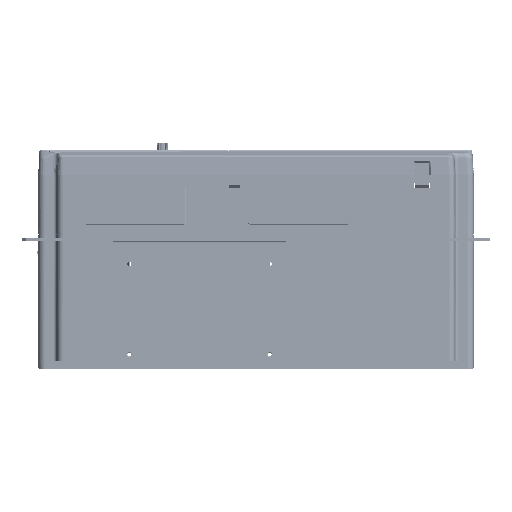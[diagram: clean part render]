
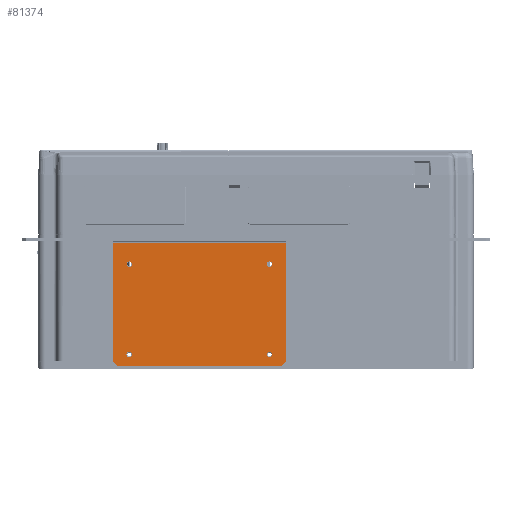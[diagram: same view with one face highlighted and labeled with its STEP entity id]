
A CAD part, left-side view. The second image highlights one B-rep face of the part: STEP entity #81374.
In plain terms, the highlighted planar face has unit normal (-1, 0, 0).
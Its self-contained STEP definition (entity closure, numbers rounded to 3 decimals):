
#4238 = VECTOR ( 'NONE', #239010, 1000. ) ;
#10304 = EDGE_CURVE ( 'NONE', #214878, #196330, #73891, .T. ) ;
#10439 = CARTESIAN_POINT ( 'NONE',  ( -128., -27.5, 2. ) ) ;
#14411 = DIRECTION ( 'NONE',  ( 0., 0., 1. ) ) ;
#16390 = VECTOR ( 'NONE', #262926, 1000. ) ;
#17977 = ORIENTED_EDGE ( 'NONE', *, *, #242011, .F. ) ;
#18471 = DIRECTION ( 'NONE',  ( 0., 0., -1. ) ) ;
#23566 = EDGE_CURVE ( 'NONE', #311941, #85389, #318418, .T. ) ;
#25561 = EDGE_CURVE ( 'NONE', #252723, #78887, #342981, .T. ) ;
#26018 = EDGE_LOOP ( 'NONE', ( #146648, #328045 ) ) ;
#29767 = VERTEX_POINT ( 'NONE', #150049 ) ;
#31321 = CARTESIAN_POINT ( 'NONE',  ( -128., 116.5, -104.6 ) ) ;
#39935 = CARTESIAN_POINT ( 'NONE',  ( -128., 127.5, -115. ) ) ;
#40740 = ORIENTED_EDGE ( 'NONE', *, *, #304590, .F. ) ;
#42338 = DIRECTION ( 'NONE',  ( -1., 0., 0. ) ) ;
#43459 = FACE_OUTER_BOUND ( 'NONE', #323279, .T. ) ;
#45858 = DIRECTION ( 'NONE',  ( -1., 0., 0. ) ) ;
#61660 = VECTOR ( 'NONE', #71015, 1000. ) ;
#70354 = CARTESIAN_POINT ( 'NONE',  ( -128., -184., 2. ) ) ;
#70383 = ORIENTED_EDGE ( 'NONE', *, *, #221519, .F. ) ;
#71015 = DIRECTION ( 'NONE',  ( 0., 1., 0. ) ) ;
#71593 = CARTESIAN_POINT ( 'NONE',  ( -128., -12.5, -104.6 ) ) ;
#73891 = CIRCLE ( 'NONE', #326758, 2.5 ) ;
#74789 = CARTESIAN_POINT ( 'NONE',  ( -128., -12.5, -21.6 ) ) ;
#77090 = EDGE_CURVE ( 'NONE', #196330, #214878, #291658, .T. ) ;
#78056 = FACE_BOUND ( 'NONE', #271814, .T. ) ;
#78887 = VERTEX_POINT ( 'NONE', #164738 ) ;
#78949 = LINE ( 'NONE', #102353, #61660 ) ;
#81374 = ADVANCED_FACE ( 'NONE', ( #168729, #272087, #78056, #125582, #43459 ), #152405, .F. ) ;
#85389 = VERTEX_POINT ( 'NONE', #315790 ) ;
#94705 = EDGE_LOOP ( 'NONE', ( #209527, #236214 ) ) ;
#96453 = CARTESIAN_POINT ( 'NONE',  ( -128., 116.5, -21.6 ) ) ;
#96580 = DIRECTION ( 'NONE',  ( 0., 0.707, 0.707 ) ) ;
#97810 = AXIS2_PLACEMENT_3D ( 'NONE', #71593, #235490, #18471 ) ;
#98394 = LINE ( 'NONE', #236329, #16390 ) ;
#102353 = CARTESIAN_POINT ( 'NONE',  ( -128., 131.5, -2. ) ) ;
#104113 = CARTESIAN_POINT ( 'NONE',  ( -128., 116.5, -107.1 ) ) ;
#104517 = VERTEX_POINT ( 'NONE', #148499 ) ;
#112940 = CARTESIAN_POINT ( 'NONE',  ( -128., 116.5, -21.6 ) ) ;
#117819 = AXIS2_PLACEMENT_3D ( 'NONE', #96453, #342240, #147260 ) ;
#125525 = CARTESIAN_POINT ( 'NONE',  ( -128., 116.5, -24.1 ) ) ;
#125582 = FACE_BOUND ( 'NONE', #94705, .T. ) ;
#125635 = CIRCLE ( 'NONE', #196612, 2.5 ) ;
#128129 = VERTEX_POINT ( 'NONE', #125525 ) ;
#128751 = VERTEX_POINT ( 'NONE', #288865 ) ;
#130283 = CIRCLE ( 'NONE', #97810, 2.5 ) ;
#135263 = ORIENTED_EDGE ( 'NONE', *, *, #226272, .F. ) ;
#137566 = VECTOR ( 'NONE', #96580, 1000. ) ;
#138768 = DIRECTION ( 'NONE',  ( -1., 0., 0. ) ) ;
#143898 = EDGE_LOOP ( 'NONE', ( #180156, #229857 ) ) ;
#144859 = CARTESIAN_POINT ( 'NONE',  ( -128., -12.5, -24.1 ) ) ;
#146648 = ORIENTED_EDGE ( 'NONE', *, *, #263565, .F. ) ;
#146754 = AXIS2_PLACEMENT_3D ( 'NONE', #276351, #166710, #310139 ) ;
#147260 = DIRECTION ( 'NONE',  ( 0., 0., -1. ) ) ;
#148499 = CARTESIAN_POINT ( 'NONE',  ( -128., 116.5, -19.1 ) ) ;
#148720 = CARTESIAN_POINT ( 'NONE',  ( -128., 116.5, -102.1 ) ) ;
#150049 = CARTESIAN_POINT ( 'NONE',  ( -128., -23.5, -115. ) ) ;
#150991 = DIRECTION ( 'NONE',  ( 0., 0., -1. ) ) ;
#152405 = PLANE ( 'NONE',  #349291 ) ;
#158324 = CARTESIAN_POINT ( 'NONE',  ( -128., -27.5, -111. ) ) ;
#159878 = EDGE_CURVE ( 'NONE', #104517, #128129, #298080, .T. ) ;
#164738 = CARTESIAN_POINT ( 'NONE',  ( -128., 131.5, -2. ) ) ;
#166387 = DIRECTION ( 'NONE',  ( 0., 0., -1. ) ) ;
#166710 = DIRECTION ( 'NONE',  ( -1., 0., 0. ) ) ;
#168729 = FACE_BOUND ( 'NONE', #143898, .T. ) ;
#180156 = ORIENTED_EDGE ( 'NONE', *, *, #77090, .F. ) ;
#181649 = AXIS2_PLACEMENT_3D ( 'NONE', #289436, #42338, #150991 ) ;
#181659 = CARTESIAN_POINT ( 'NONE',  ( -128., -27.5, -2. ) ) ;
#183816 = CARTESIAN_POINT ( 'NONE',  ( -128., 116.5, -104.6 ) ) ;
#194249 = VECTOR ( 'NONE', #227541, 1000. ) ;
#196330 = VERTEX_POINT ( 'NONE', #104113 ) ;
#196612 = AXIS2_PLACEMENT_3D ( 'NONE', #74789, #45858, #266487 ) ;
#198423 = LINE ( 'NONE', #158324, #4238 ) ;
#207712 = ORIENTED_EDGE ( 'NONE', *, *, #23566, .F. ) ;
#207713 = VERTEX_POINT ( 'NONE', #181659 ) ;
#208179 = VERTEX_POINT ( 'NONE', #240822 ) ;
#209527 = ORIENTED_EDGE ( 'NONE', *, *, #348119, .F. ) ;
#210866 = LINE ( 'NONE', #39935, #137566 ) ;
#213879 = VERTEX_POINT ( 'NONE', #144859 ) ;
#214878 = VERTEX_POINT ( 'NONE', #148720 ) ;
#218528 = EDGE_CURVE ( 'NONE', #207713, #78887, #78949, .T. ) ;
#221519 = EDGE_CURVE ( 'NONE', #29767, #258117, #98394, .T. ) ;
#226272 = EDGE_CURVE ( 'NONE', #207713, #208179, #267511, .T. ) ;
#227535 = CARTESIAN_POINT ( 'NONE',  ( -128., -12.5, -102.1 ) ) ;
#227541 = DIRECTION ( 'NONE',  ( 0., 0., -1. ) ) ;
#229857 = ORIENTED_EDGE ( 'NONE', *, *, #10304, .F. ) ;
#235444 = DIRECTION ( 'NONE',  ( 1., 0., 0. ) ) ;
#235490 = DIRECTION ( 'NONE',  ( -1., 0., 0. ) ) ;
#236214 = ORIENTED_EDGE ( 'NONE', *, *, #159878, .F. ) ;
#236329 = CARTESIAN_POINT ( 'NONE',  ( -128., -184., -115. ) ) ;
#239010 = DIRECTION ( 'NONE',  ( 0., 0.707, -0.707 ) ) ;
#240822 = CARTESIAN_POINT ( 'NONE',  ( -128., -27.5, -111. ) ) ;
#242011 = EDGE_CURVE ( 'NONE', #208179, #29767, #198423, .T. ) ;
#245441 = CARTESIAN_POINT ( 'NONE',  ( -128., 131.5, -111. ) ) ;
#251063 = CARTESIAN_POINT ( 'NONE',  ( -128., 127.5, -115. ) ) ;
#252723 = VERTEX_POINT ( 'NONE', #245441 ) ;
#258117 = VERTEX_POINT ( 'NONE', #251063 ) ;
#262926 = DIRECTION ( 'NONE',  ( 0., 1., 0. ) ) ;
#263229 = DIRECTION ( 'NONE',  ( 0., 0., -1. ) ) ;
#263565 = EDGE_CURVE ( 'NONE', #213879, #128751, #341070, .T. ) ;
#266487 = DIRECTION ( 'NONE',  ( 0., 0., -1. ) ) ;
#267511 = LINE ( 'NONE', #10439, #194249 ) ;
#271814 = EDGE_LOOP ( 'NONE', ( #284021, #207712 ) ) ;
#272087 = FACE_BOUND ( 'NONE', #26018, .T. ) ;
#276351 = CARTESIAN_POINT ( 'NONE',  ( -128., -12.5, -21.6 ) ) ;
#278412 = VECTOR ( 'NONE', #14411, 1000. ) ;
#281616 = AXIS2_PLACEMENT_3D ( 'NONE', #112940, #336865, #304441 ) ;
#284021 = ORIENTED_EDGE ( 'NONE', *, *, #302463, .F. ) ;
#288865 = CARTESIAN_POINT ( 'NONE',  ( -128., -12.5, -19.1 ) ) ;
#289436 = CARTESIAN_POINT ( 'NONE',  ( -128., -12.5, -104.6 ) ) ;
#291658 = CIRCLE ( 'NONE', #357771, 2.5 ) ;
#292207 = DIRECTION ( 'NONE',  ( 0., 0., -1. ) ) ;
#293498 = CIRCLE ( 'NONE', #281616, 2.5 ) ;
#295744 = DIRECTION ( 'NONE',  ( -1., 0., 0. ) ) ;
#298080 = CIRCLE ( 'NONE', #117819, 2.5 ) ;
#299072 = EDGE_CURVE ( 'NONE', #128751, #213879, #125635, .T. ) ;
#302463 = EDGE_CURVE ( 'NONE', #85389, #311941, #130283, .T. ) ;
#304441 = DIRECTION ( 'NONE',  ( 0., 0., -1. ) ) ;
#304590 = EDGE_CURVE ( 'NONE', #258117, #252723, #210866, .T. ) ;
#310139 = DIRECTION ( 'NONE',  ( 0., 0., -1. ) ) ;
#311941 = VERTEX_POINT ( 'NONE', #227535 ) ;
#312103 = ORIENTED_EDGE ( 'NONE', *, *, #218528, .T. ) ;
#315790 = CARTESIAN_POINT ( 'NONE',  ( -128., -12.5, -107.1 ) ) ;
#318418 = CIRCLE ( 'NONE', #181649, 2.5 ) ;
#323279 = EDGE_LOOP ( 'NONE', ( #17977, #135263, #312103, #341293, #40740, #70383 ) ) ;
#326758 = AXIS2_PLACEMENT_3D ( 'NONE', #31321, #138768, #166387 ) ;
#328045 = ORIENTED_EDGE ( 'NONE', *, *, #299072, .F. ) ;
#336865 = DIRECTION ( 'NONE',  ( -1., 0., 0. ) ) ;
#341070 = CIRCLE ( 'NONE', #146754, 2.5 ) ;
#341293 = ORIENTED_EDGE ( 'NONE', *, *, #25561, .F. ) ;
#342240 = DIRECTION ( 'NONE',  ( -1., 0., 0. ) ) ;
#342981 = LINE ( 'NONE', #344583, #278412 ) ;
#344583 = CARTESIAN_POINT ( 'NONE',  ( -128., 131.5, -58.5 ) ) ;
#348119 = EDGE_CURVE ( 'NONE', #128129, #104517, #293498, .T. ) ;
#349291 = AXIS2_PLACEMENT_3D ( 'NONE', #70354, #235444, #263229 ) ;
#357771 = AXIS2_PLACEMENT_3D ( 'NONE', #183816, #295744, #292207 ) ;
